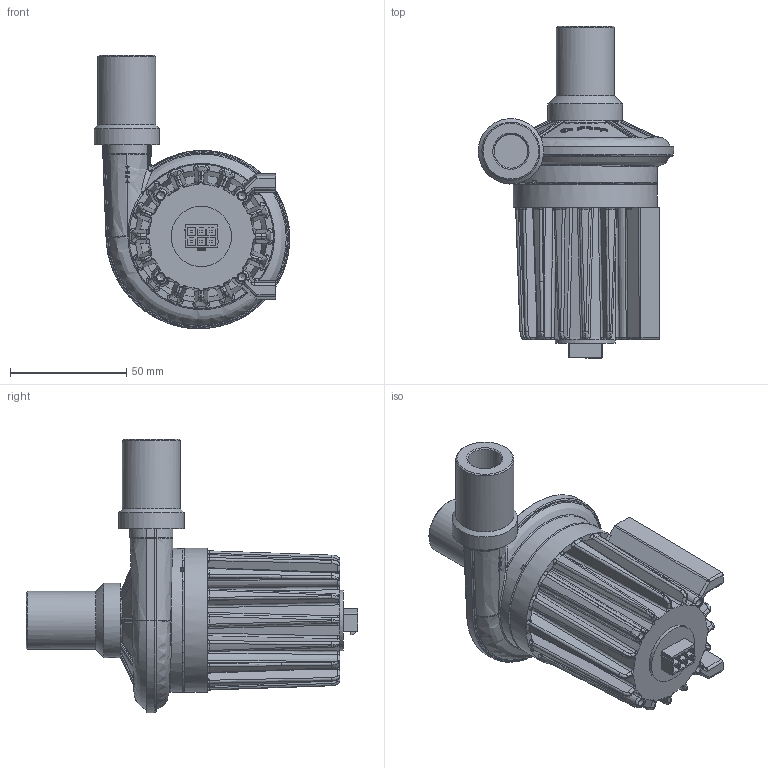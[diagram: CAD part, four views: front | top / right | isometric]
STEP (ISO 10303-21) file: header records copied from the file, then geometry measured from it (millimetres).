
FILE_DESCRIPTION(/* description */ (''),/* implementation_level */ '2;1');
FILE_NAME(/* name */ 'U85HL-024KH-43.stp',/* time_stamp */ '2024-06-10T13:07:47+02:00',/* author */ (''),/* organization */ (''),/* preprocessor_version */ 'ST-DEVELOPER v16.7',/* originating_system */ 'SIEMENS PLM Software NX 1946',/* authorisation */ '');
FILE_SCHEMA (('AUTOMOTIVE_DESIGN { 1 0 10303 214 3 1 1 1 }'));
Length unit declared in the file: millimetre
Products named in the file (1): 021689_1-U85HL-024KH-43_simple _-_
Bounding box: 84.18 x 142.9 x 117.73 mm (x, y, z)
Volume: 272226.3 mm3; surface area: 57941.4 mm2
Topology: 1 solids, 1 shells, 1336 faces, 3361 edges, 2041 vertices
Faces by surface type: plane 429, bspline 399, cylinder 299, cone 126, torus 54, sphere 28, revolution 1
Full cylindrical faces by diameter (mm): 3.3 x8, 4 x1, 14.5 x1, 14.6 x1, 18.5 x1, 19 x1, 23 x1, 24 x1, 24.2 x2, 25 x2, 25.9 x1, 26 x1, 27 x1, 27.1 x1, 28.2 x1, 32.1 x1, 56.6 x1, 62 x1
Entity records: 57018 total; most frequent: CARTESIAN_POINT 30029, ORIENTED_EDGE 6454, DIRECTION 3988, EDGE_CURVE 3227, VERTEX_POINT 2006, B_SPLINE_CURVE_WITH_KNOTS 1632, AXIS2_PLACEMENT_3D 1505, EDGE_LOOP 1443
